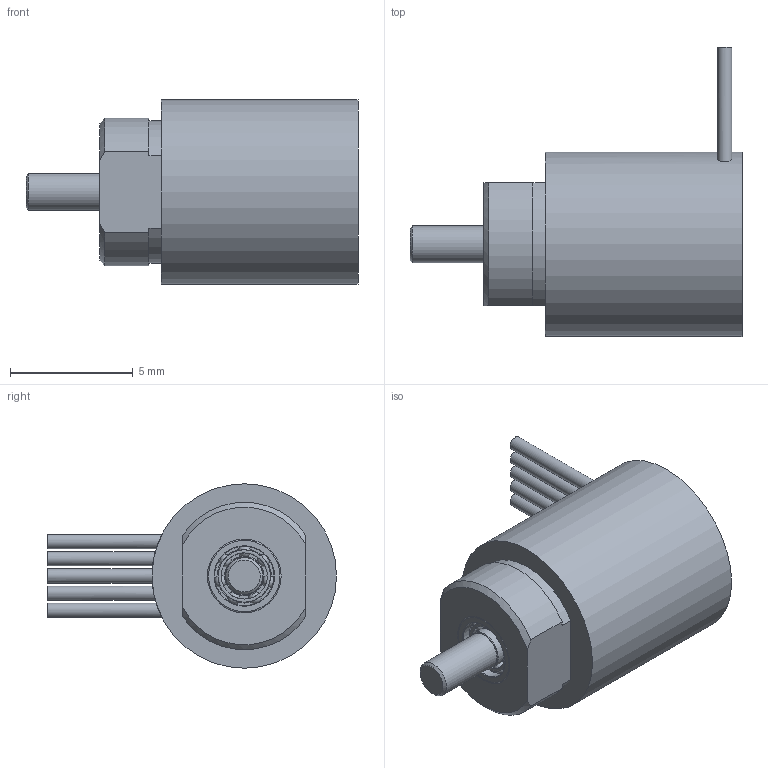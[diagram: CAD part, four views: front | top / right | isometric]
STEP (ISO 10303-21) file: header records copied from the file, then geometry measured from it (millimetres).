
FILE_DESCRIPTION(('STEP AP242'),'1');
FILE_NAME('L12C01 MES-6PST.stp','2024-03-15T02:18:52',(' '),(' '),'Spatial InterOp 3D',' ',' ');
FILE_SCHEMA(('AP242_MANAGED_MODEL_BASED_3D_ENGINEERING_MIM_LF {1 0 10303 442 1 1 4}'));
Length unit declared in the file: millimetre
Products named in the file (7):  ベアリング 310LY121; L-310_or; L-310_ball; L-310_cage; L-310_ir; L12C01 MES-6PST
Assembly tree (13 placements, depth 3):
  L12C01 MES-6PST
     ベアリング 310LY121  x2
      L-310_or
      L-310_ball
      L-310_cage
      L-310_ir
    L12C01 MES-6PST
Bounding box: 13.5 x 11.75 x 7.5 mm (x, y, z)
Volume: 418.6 mm3; surface area: 520.9 mm2
Topology: 21 solids, 21 shells, 111 faces, 266 edges, 172 vertices
Faces by surface type: cylinder 31, sphere 28, plane 25, torus 24, cone 3
Full cylindrical faces by diameter (mm): 0.58 x5, 1 x3, 1.5 x1, 1.6 x4, 1.875 x2, 2.125 x2, 2.2 x1, 2.41 x4, 3 x4, 7.5 x1
Entity records: 2928 total; most frequent: CARTESIAN_POINT 640, DIRECTION 284, ORIENTED_EDGE 182, AXIS2_PLACEMENT_3D 134, EDGE_LOOP 134, FACE_OUTER_BOUND 102, EDGE_CURVE 91, VERTEX_POINT 82
